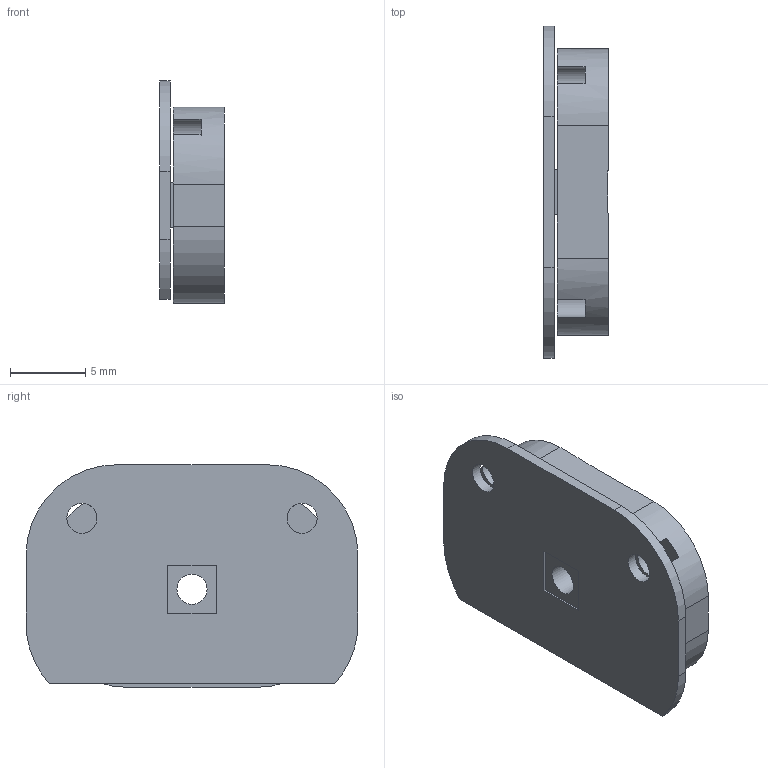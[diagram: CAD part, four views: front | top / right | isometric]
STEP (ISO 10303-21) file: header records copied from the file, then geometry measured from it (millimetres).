
FILE_DESCRIPTION(('Open CASCADE Model'),'2;1');
FILE_NAME('Open CASCADE Shape Model','2026-09-06T12:00:15',('Author'),( 'Open CASCADE'),'Open CASCADE STEP processor 7.7','Open CASCADE 7.7' ,'Unknown');
FILE_SCHEMA(('AUTOMOTIVE_DESIGN { 1 0 10303 214 1 1 1 1 }'));
Length unit declared in the file: millimetre
Products named in the file (1): Open CASCADE STEP translator 7.7 3
Bounding box: 4.3 x 22 x 14.75 mm (x, y, z)
Volume: 797.4 mm3; surface area: 1330.5 mm2
Topology: 1 solids, 1 shells, 48 faces, 129 edges, 86 vertices
Faces by surface type: plane 29, cylinder 17, sphere 2
Full cylindrical faces by diameter (mm): 2 x3
Entity records: 3369 total; most frequent: CARTESIAN_POINT 810, DIRECTION 472, ORIENTED_EDGE 258, PCURVE 258, DEFINITIONAL_REPRESENTATION 258, LINE 255, VECTOR 255, EDGE_CURVE 129
